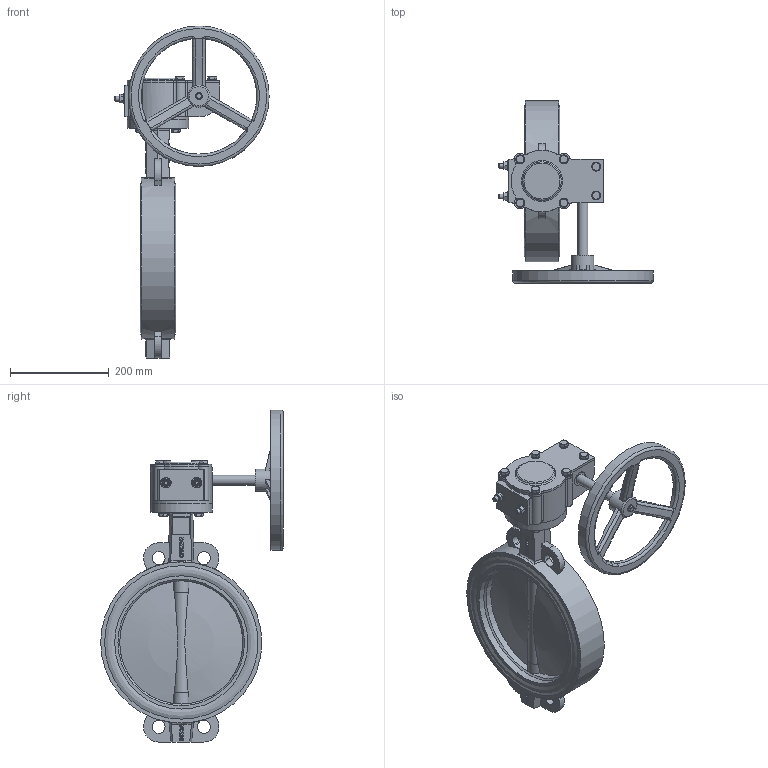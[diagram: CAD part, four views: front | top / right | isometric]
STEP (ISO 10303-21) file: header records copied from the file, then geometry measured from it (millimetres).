
FILE_DESCRIPTION(('STEP AP242'), '1');
FILE_NAME('Ïîâîðîòíûé çàòâîð ïîä ýëåêòðîïðèâîä', '', ('UNSPECIFIED'), ('UNSPECIFIED'), 'C3D Converter', 'C3D Toolkit', '');
FILE_SCHEMA(('AP242_MANAGED_MODEL_BASED_3D_ENGINEERING_MIM_LF { 1 0 10303 442 1 1 4 }'));
Length unit declared in the file: millimetre
Products named in the file (16): П
Assembly tree (36 placements, depth 3):
  (unnamed)
    (unnamed)
    П  x2
    (unnamed)
    (unnamed)
    (unnamed)
    (unnamed)
      (unnamed)
      (unnamed)
      (unnamed)
      (unnamed)
      (unnamed)  x6
      (unnamed)  x6
      (unnamed)
      (unnamed)  x2
      (unnamed)  x2
    (unnamed)  x4
    (unnamed)  x4
Bounding box: 313 x 370.5 x 673.5 mm (x, y, z)
Volume: 5729041.2 mm3; surface area: 1002616.1 mm2
Topology: 35 solids, 35 shells, 812 faces, 1949 edges, 1258 vertices
Faces by surface type: plane 391, cylinder 149, extrusion 135, bspline 60, cone 44, torus 29, sphere 4
Full cylindrical faces by diameter (mm): 6 x2, 8.917 x2, 10 x30, 10.5 x10, 11.421 x1, 12 x4, 18 x10, 20 x3, 27 x6, 30 x2, 32.11 x4, 38.184 x5, 45 x1, 125 x2, 235 x1, 245 x1, 250 x1, 256.76 x2, 270.28 x2, 275 x1, 285 x1, 290.753 x4, 311.227 x4, 327 x1
Entity records: 32465 total; most frequent: CARTESIAN_POINT 15176, ORIENTED_EDGE 2986, DIRECTION 2379, EDGE_CURVE 1493, VERTEX_POINT 1035, EDGE_LOOP 828, VECTOR 795, AXIS2_PLACEMENT_3D 792
